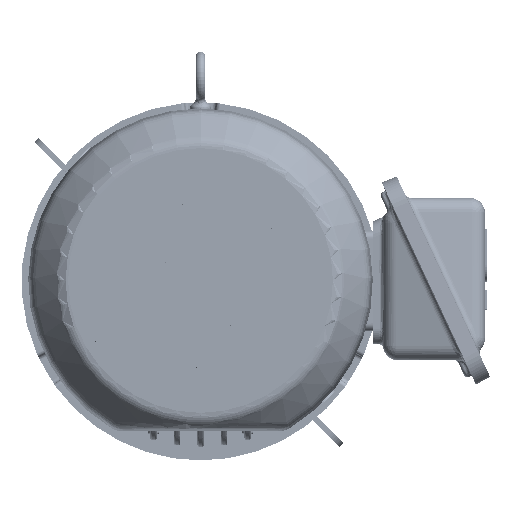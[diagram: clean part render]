
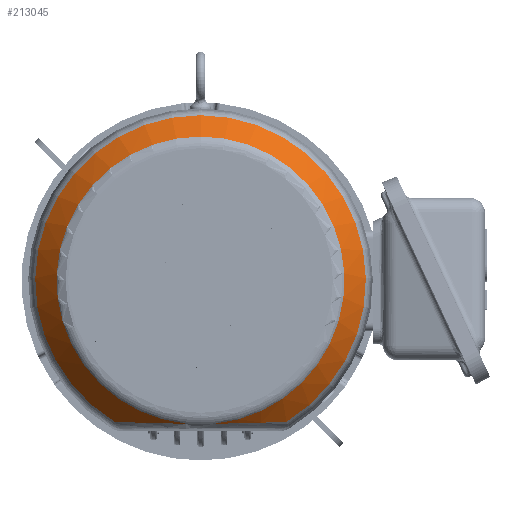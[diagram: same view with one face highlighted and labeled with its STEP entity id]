
A CAD part, top view. The second image highlights one B-rep face of the part: STEP entity #213045.
In plain terms, the highlighted conical face has half-angle 40 degrees and reference radius 130.28 mm.
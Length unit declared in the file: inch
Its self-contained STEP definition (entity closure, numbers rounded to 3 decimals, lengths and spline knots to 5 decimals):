
#209102=CARTESIAN_POINT('',(0.,0.,-4.51154));
#209103=DIRECTION('',(0.,0.,1.));
#209104=DIRECTION('',(0.,1.,0.));
#209105=AXIS2_PLACEMENT_3D('',#209102,#209103,#209104);
#209107=CARTESIAN_POINT('',(0.,0.,-4.51154));
#209108=DIRECTION('',(0.,0.,-1.));
#209109=DIRECTION('',(0.,1.,0.));
#209110=AXIS2_PLACEMENT_3D('',#209107,#209108,#209109);
#209112=CARTESIAN_POINT('',(2.84923,-4.6852,
-3.66687));
#209113=CARTESIAN_POINT('',(2.67557,-4.6917,
-3.76779));
#209114=CARTESIAN_POINT('',(2.33723,-4.70423,
-3.94939));
#209115=CARTESIAN_POINT('',(1.85597,-4.7208,
-4.16443));
#209116=CARTESIAN_POINT('',(1.38906,-4.73466,
-4.32953));
#209117=CARTESIAN_POINT('',(0.93047,-4.74522,
-4.44735));
#209118=CARTESIAN_POINT('',(0.626,-4.74973,
-4.49528));
#209119=CARTESIAN_POINT('',(0.47298,-4.75126,
-4.51154));
#209121=CARTESIAN_POINT('',(0.,0.,-3.66686));
#209122=DIRECTION('',(0.,0.,1.));
#209123=DIRECTION('',(0.52,-0.854,0.));
#209124=AXIS2_PLACEMENT_3D('',#209121,#209122,#209123);
#209126=CARTESIAN_POINT('',(-0.473,-4.75126,
-4.51154));
#209127=CARTESIAN_POINT('',(-0.6253,-4.74973,
-4.49537));
#209128=CARTESIAN_POINT('',(-0.92873,-4.74526,
-4.4477));
#209129=CARTESIAN_POINT('',(-1.38806,-4.73469,
-4.32985));
#209130=CARTESIAN_POINT('',(-1.85461,-4.72084,
-4.16495));
#209131=CARTESIAN_POINT('',(-2.33576,-4.70429,
-3.95015));
#209132=CARTESIAN_POINT('',(-2.67496,-4.6917,
-3.76812));
#209133=CARTESIAN_POINT('',(-2.84922,-4.68518,
-3.66686));
#211342=CARTESIAN_POINT('',(0.,4.77475,-4.51154));
#211344=VERTEX_POINT('',#211342);
#212311=CARTESIAN_POINT('',(-2.84931,-4.68513,
-3.66686));
#212312=VERTEX_POINT('',#212311);
#212313=VERTEX_POINT('',#209126);
#212315=VERTEX_POINT('',#209112);
#212316=VERTEX_POINT('',#209119);
#213030=CARTESIAN_POINT('',(0.,0.,-4.0892));
#213031=DIRECTION('',(0.,0.,1.));
#213032=DIRECTION('',(0.,1.,0.));
#213033=AXIS2_PLACEMENT_3D('',#213030,#213031,#213032);
#213034=CONICAL_SURFACE('',#213033,5.12913,40.);
#213036=ORIENTED_EDGE('',*,*,#213035,.F.);
#213037=ORIENTED_EDGE('',*,*,#212953,.T.);
#213039=ORIENTED_EDGE('',*,*,#213038,.F.);
#213041=ORIENTED_EDGE('',*,*,#213040,.T.);
#213042=ORIENTED_EDGE('',*,*,#213016,.F.);
#213043=EDGE_LOOP('',(#213036,#213037,#213039,#213041,#213042));
#213044=FACE_OUTER_BOUND('',#213043,.F.);
#213045=ADVANCED_FACE('',(#213044),#213034,.T.);
#209106=CIRCLE('',#209105,4.77475);
#209111=CIRCLE('',#209110,4.77475);
#209120=B_SPLINE_CURVE_WITH_KNOTS('',3,(#209112,#209113,#209114,#209115,#209116,
#209117,#209118,#209119),.UNSPECIFIED.,.F.,.F.,(4,1,1,1,1,4),(0.,0.2,0.4,
0.6,0.8,1.),.UNSPECIFIED.);
#209125=CIRCLE('',#209124,5.48352);
#209134=B_SPLINE_CURVE_WITH_KNOTS('',3,(#209126,#209127,#209128,#209129,#209130,
#209131,#209132,#209133),.UNSPECIFIED.,.F.,.F.,(4,1,1,1,1,4),(0.,0.2,0.4,
0.6,0.8,1.),.UNSPECIFIED.);
#212953=EDGE_CURVE('',#211344,#212316,#209111,.T.);
#213016=EDGE_CURVE('',#212313,#212312,#209134,.T.);
#213035=EDGE_CURVE('',#211344,#212313,#209106,.T.);
#213038=EDGE_CURVE('',#212315,#212316,#209120,.T.);
#213040=EDGE_CURVE('',#212315,#212312,#209125,.T.);
